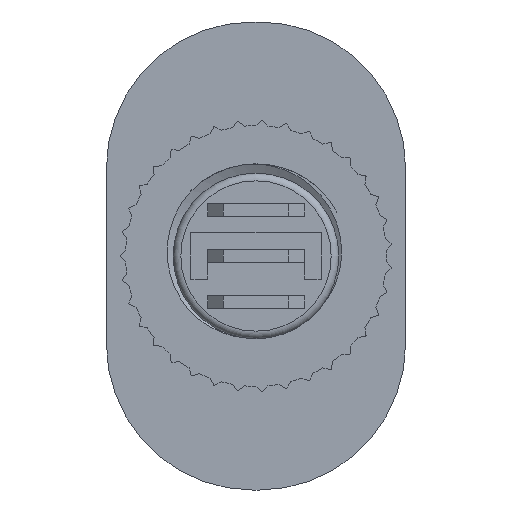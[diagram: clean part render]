
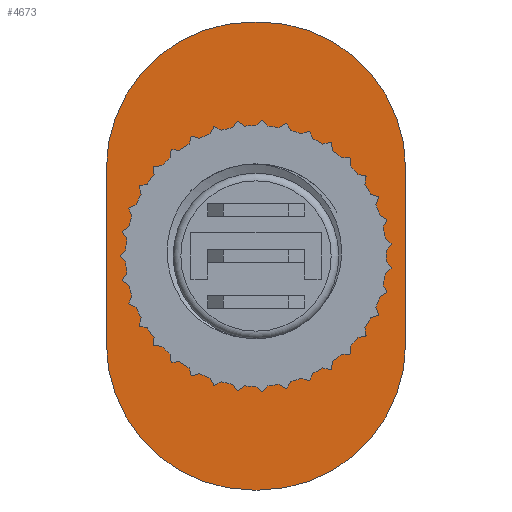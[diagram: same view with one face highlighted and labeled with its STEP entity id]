
A CAD part, front view. The second image highlights one B-rep face of the part: STEP entity #4673.
In plain terms, the highlighted planar face has unit normal (0, -1, 0).
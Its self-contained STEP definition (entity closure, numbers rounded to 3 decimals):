
#166=FACE_BOUND('',#828,.T.);
#206=CIRCLE('',#5072,9.525);
#207=CIRCLE('',#5075,9.525);
#217=CIRCLE('',#5089,5.398);
#234=CIRCLE('',#5125,9.525);
#235=CIRCLE('',#5128,9.525);
#559=FACE_OUTER_BOUND('',#827,.T.);
#827=EDGE_LOOP('',(#3300,#3301,#3302,#3303,#3304,#3305,#3306,#3307));
#828=EDGE_LOOP('',(#3308));
#1088=LINE('',#6987,#1509);
#1091=LINE('',#6995,#1512);
#1115=LINE('',#7100,#1536);
#1117=LINE('',#7106,#1538);
#1509=VECTOR('',#5627,10.);
#1512=VECTOR('',#5636,10.);
#1536=VECTOR('',#5760,10.);
#1538=VECTOR('',#5768,10.);
#1929=VERTEX_POINT('',#6979);
#1930=VERTEX_POINT('',#6981);
#1931=VERTEX_POINT('',#6985);
#1932=VERTEX_POINT('',#6989);
#1933=VERTEX_POINT('',#6993);
#1946=VERTEX_POINT('',#7024);
#1963=VERTEX_POINT('',#7094);
#1964=VERTEX_POINT('',#7098);
#1965=VERTEX_POINT('',#7102);
#2416=EDGE_CURVE('',#1930,#1929,#206,.T.);
#2419=EDGE_CURVE('',#1929,#1931,#1088,.T.);
#2421=EDGE_CURVE('',#1931,#1932,#207,.T.);
#2423=EDGE_CURVE('',#1932,#1933,#1091,.T.);
#2438=EDGE_CURVE('',#1946,#1946,#217,.T.);
#2472=EDGE_CURVE('',#1933,#1963,#234,.T.);
#2474=EDGE_CURVE('',#1963,#1964,#1115,.T.);
#2476=EDGE_CURVE('',#1964,#1965,#235,.T.);
#2477=EDGE_CURVE('',#1965,#1930,#1117,.T.);
#3300=ORIENTED_EDGE('',*,*,#2477,.T.);
#3301=ORIENTED_EDGE('',*,*,#2416,.T.);
#3302=ORIENTED_EDGE('',*,*,#2419,.T.);
#3303=ORIENTED_EDGE('',*,*,#2421,.T.);
#3304=ORIENTED_EDGE('',*,*,#2423,.T.);
#3305=ORIENTED_EDGE('',*,*,#2472,.T.);
#3306=ORIENTED_EDGE('',*,*,#2474,.T.);
#3307=ORIENTED_EDGE('',*,*,#2476,.T.);
#3308=ORIENTED_EDGE('',*,*,#2438,.T.);
#4523=PLANE('',#5130);
#4673=ADVANCED_FACE('',(#559,#166),#4523,.T.);
#5072=AXIS2_PLACEMENT_3D('',#6982,#5621,#5622);
#5075=AXIS2_PLACEMENT_3D('',#6991,#5631,#5632);
#5089=AXIS2_PLACEMENT_3D('',#7026,#5666,#5667);
#5125=AXIS2_PLACEMENT_3D('',#7096,#5755,#5756);
#5128=AXIS2_PLACEMENT_3D('',#7104,#5764,#5765);
#5130=AXIS2_PLACEMENT_3D('',#7107,#5769,#5770);
#5621=DIRECTION('center_axis',(0.,-1.,0.));
#5622=DIRECTION('ref_axis',(0.,0.,1.));
#5627=DIRECTION('',(1.,0.,0.));
#5631=DIRECTION('center_axis',(0.,-1.,0.));
#5632=DIRECTION('ref_axis',(-1.,0.,0.));
#5636=DIRECTION('',(0.,0.,1.));
#5666=DIRECTION('center_axis',(0.,1.,0.));
#5667=DIRECTION('ref_axis',(-1.,0.,0.));
#5755=DIRECTION('center_axis',(0.,-1.,0.));
#5756=DIRECTION('ref_axis',(0.,0.,-1.));
#5760=DIRECTION('',(-1.,0.,0.));
#5764=DIRECTION('center_axis',(0.,-1.,0.));
#5765=DIRECTION('ref_axis',(1.,0.,0.));
#5768=DIRECTION('',(0.,0.,-1.));
#5769=DIRECTION('center_axis',(0.,-1.,0.));
#5770=DIRECTION('ref_axis',(0.,0.,-1.));
#6979=CARTESIAN_POINT('',(-0.225,0.,-15.25));
#6981=CARTESIAN_POINT('',(-9.75,0.,-5.725));
#6982=CARTESIAN_POINT('Origin',(-0.225,0.,-5.725));
#6985=CARTESIAN_POINT('',(0.225,0.,-15.25));
#6987=CARTESIAN_POINT('',(-0.225,0.,-15.25));
#6989=CARTESIAN_POINT('',(9.75,0.,-5.725));
#6991=CARTESIAN_POINT('Origin',(0.225,0.,-5.725));
#6993=CARTESIAN_POINT('',(9.75,0.,5.725));
#6995=CARTESIAN_POINT('',(9.75,0.,-5.725));
#7024=CARTESIAN_POINT('',(5.398,0.,0.));
#7026=CARTESIAN_POINT('Origin',(0.,0.,0.));
#7094=CARTESIAN_POINT('',(0.225,0.,15.25));
#7096=CARTESIAN_POINT('Origin',(0.225,0.,5.725));
#7098=CARTESIAN_POINT('',(-0.225,0.,15.25));
#7100=CARTESIAN_POINT('',(0.225,0.,15.25));
#7102=CARTESIAN_POINT('',(-9.75,0.,5.725));
#7104=CARTESIAN_POINT('Origin',(-0.225,0.,5.725));
#7106=CARTESIAN_POINT('',(-9.75,0.,5.725));
#7107=CARTESIAN_POINT('Origin',(0.,0.,0.));
